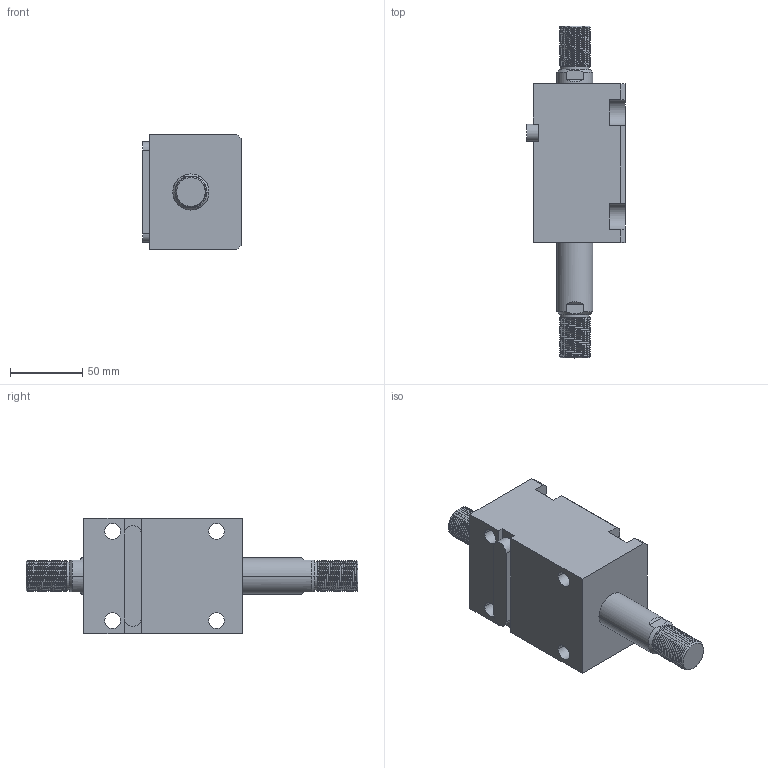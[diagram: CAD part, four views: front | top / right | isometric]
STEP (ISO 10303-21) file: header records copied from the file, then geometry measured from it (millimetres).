
FILE_DESCRIPTION (( 'STEP AP214' ), '1' );
FILE_NAME ('chtb-lw40x40w_asm.STEP', '2018-06-04T07:23:39', ( 'Windows' ), ( 'Microsoft' ), 'SwSTEP 2.0', 'SolidWorks 2015', '' );
FILE_SCHEMA (( 'AUTOMOTIVE_DESIGN' ));
Length unit declared in the file: millimetre
Products named in the file (5): CHTB-SW40X40NHSG; CHTB-SD40QG; CHTB-LW40X40NBT; CHTB-LA40PJ; chtb-lw40x40w_asm
Assembly tree (4 placements, depth 2):
  chtb-lw40x40w_asm
    CHTB-LA40PJ
    CHTB-LW40X40NBT
    CHTB-SD40QG
    CHTB-SW40X40NHSG
Bounding box: 68.5 x 230 x 80 mm (x, y, z)
Volume: 546909.1 mm3; surface area: 99863.5 mm2
Topology: 4 solids, 4 shells, 258 faces, 711 edges, 473 vertices
Faces by surface type: cylinder 152, plane 59, bspline 18, cone 17, torus 12
Entity records: 17539 total; most frequent: CARTESIAN_POINT 11292, ORIENTED_EDGE 1410, DIRECTION 1124, EDGE_CURVE 705, VERTEX_POINT 473, AXIS2_PLACEMENT_3D 433, EDGE_LOOP 292, VECTOR 258
